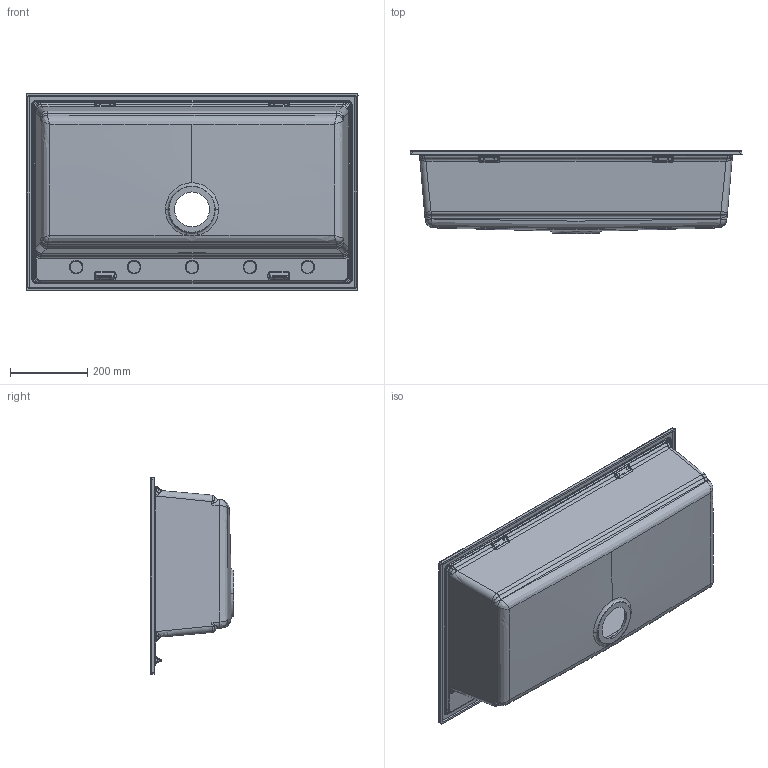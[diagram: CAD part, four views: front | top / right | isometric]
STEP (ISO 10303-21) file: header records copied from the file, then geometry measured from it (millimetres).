
FILE_DESCRIPTION (( 'STEP AP203' ), '1' );
FILE_NAME ('BEST360.STEP', '2018-10-10T09:16:10', ( '' ), ( '' ), 'SwSTEP 2.0', 'SolidWorks 2013', '' );
FILE_SCHEMA (( 'CONFIG_CONTROL_DESIGN' ));
Length unit declared in the file: millimetre
Products named in the file (1): BEST360
Bounding box: 859.93 x 215.27 x 509.93 mm (x, y, z)
Volume: 6633256.4 mm3; surface area: 1643575.9 mm2
Topology: 1 solids, 1 shells, 502 faces, 1222 edges, 689 vertices
Faces by surface type: bspline 234, cylinder 166, plane 62, cone 28, sphere 12
Entity records: 37793 total; most frequent: CARTESIAN_POINT 28182, ORIENTED_EDGE 2332, DIRECTION 1480, EDGE_CURVE 1166, VERTEX_POINT 689, AXIS2_PLACEMENT_3D 592, EDGE_LOOP 529, B_SPLINE_CURVE_WITH_KNOTS 524
